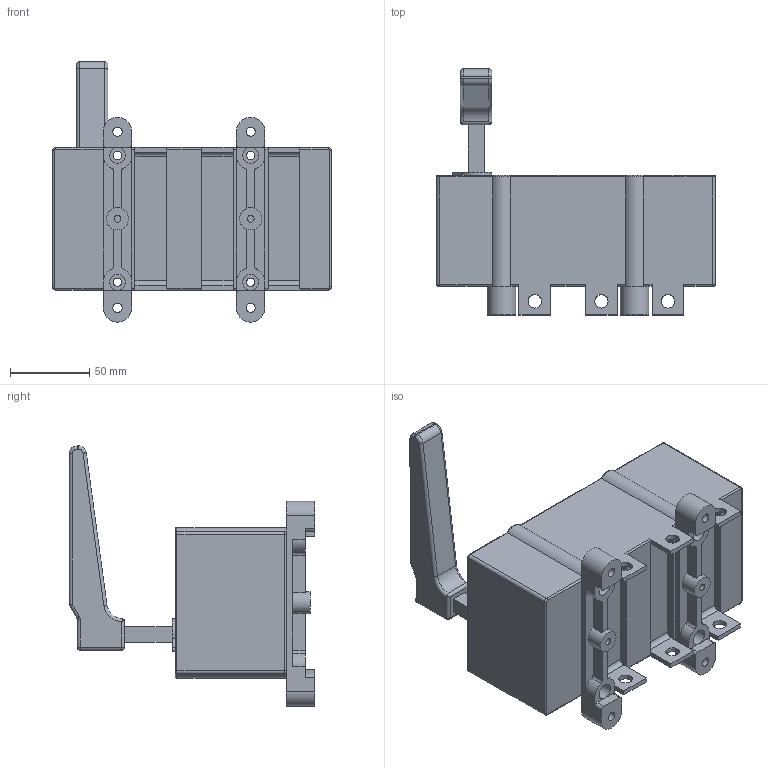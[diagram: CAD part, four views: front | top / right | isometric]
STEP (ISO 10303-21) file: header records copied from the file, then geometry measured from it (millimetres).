
FILE_DESCRIPTION(/* description */ (''),/* implementation_level */ '2;1');
FILE_NAME(/* name */ 'RA160 P3 C-R.stp',/* time_stamp */ '2021-08-17T14:51:58+02:00',/* author */ (''),/* organization */ (''),/* preprocessor_version */ 'ST-DEVELOPER v18.1',/* originating_system */ 'SIEMENS PLM Software NX 1965',/* authorisation */ '');
FILE_SCHEMA (('AUTOMOTIVE_DESIGN { 1 0 10303 214 3 1 1 1 }'));
Length unit declared in the file: millimetre
Products named in the file (1): RA160 P3 C-R_stp
Bounding box: 176 x 155 x 164.18 mm (x, y, z)
Volume: 1183398.7 mm3; surface area: 107417.5 mm2
Topology: 1 solids, 1 shells, 250 faces, 649 edges, 404 vertices
Faces by surface type: cylinder 116, plane 108, torus 15, sphere 6, bspline 5
Full cylindrical faces by diameter (mm): 4.3 x2, 5.3 x4, 5.8 x4, 8.5 x6, 10 x8, 14 x2
Entity records: 7550 total; most frequent: CARTESIAN_POINT 1445, DIRECTION 1315, ORIENTED_EDGE 1210, EDGE_CURVE 605, AXIS2_PLACEMENT_3D 486, VERTEX_POINT 392, LINE 343, VECTOR 343
